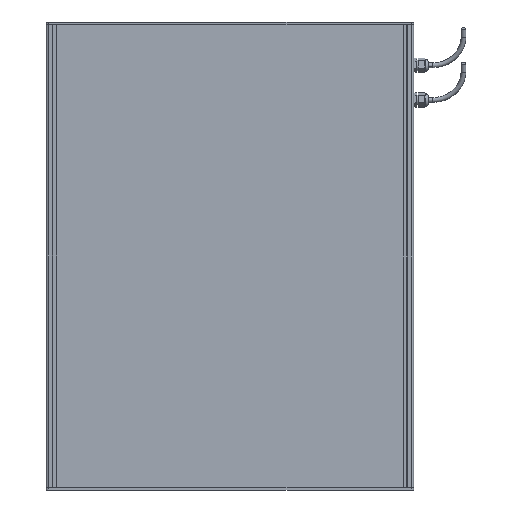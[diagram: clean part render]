
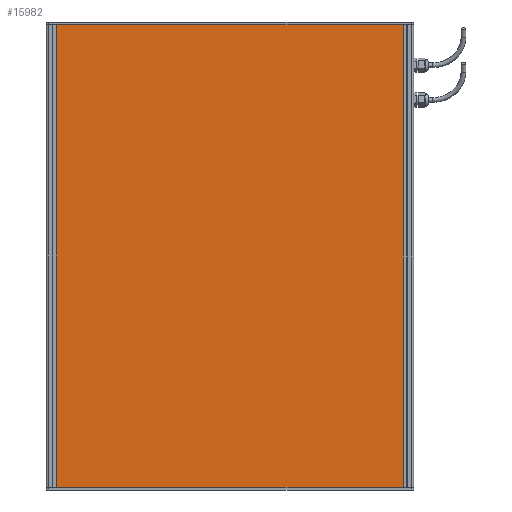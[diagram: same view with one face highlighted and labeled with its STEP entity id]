
A CAD part, front view. The second image highlights one B-rep face of the part: STEP entity #15982.
In plain terms, the highlighted planar face has unit normal (0, -1, 0) as drawn and (0, 0, 1) by its records, which use the part's own axes.
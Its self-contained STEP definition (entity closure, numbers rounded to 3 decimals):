
#61 = AXIS2_PLACEMENT_3D ( 'NONE', #11999, #14525, #3285 ) ;
#1047 = LINE ( 'NONE', #6129, #5318 ) ;
#1288 = LINE ( 'NONE', #14860, #7085 ) ;
#1499 = EDGE_CURVE ( 'NONE', #10752, #2173, #1288, .T. ) ;
#2173 = VERTEX_POINT ( 'NONE', #12511 ) ;
#2389 = DIRECTION ( 'NONE',  ( 0., -1., 0. ) ) ;
#2569 = ORIENTED_EDGE ( 'NONE', *, *, #5177, .T. ) ;
#3285 = DIRECTION ( 'NONE',  ( -1., 0., 0. ) ) ;
#4236 = LINE ( 'NONE', #8065, #8875 ) ;
#4682 = VERTEX_POINT ( 'NONE', #10606 ) ;
#5177 = EDGE_CURVE ( 'NONE', #2173, #15792, #6877, .T. ) ;
#5318 = VECTOR ( 'NONE', #2389, 1000. ) ;
#6129 = CARTESIAN_POINT ( 'NONE',  ( -609., 0., 0. ) ) ;
#6517 = ORIENTED_EDGE ( 'NONE', *, *, #1499, .T. ) ;
#6877 = LINE ( 'NONE', #11536, #14882 ) ;
#7030 = PLANE ( 'NONE',  #61 ) ;
#7085 = VECTOR ( 'NONE', #14939, 1000. ) ;
#7876 = ORIENTED_EDGE ( 'NONE', *, *, #8707, .T. ) ;
#8065 = CARTESIAN_POINT ( 'NONE',  ( -9., -800., 0. ) ) ;
#8281 = EDGE_LOOP ( 'NONE', ( #6517, #2569, #15242, #7876 ) ) ;
#8707 = EDGE_CURVE ( 'NONE', #4682, #10752, #4236, .T. ) ;
#8875 = VECTOR ( 'NONE', #14399, 1000. ) ;
#9860 = CARTESIAN_POINT ( 'NONE',  ( -9., -800., 0. ) ) ;
#10606 = CARTESIAN_POINT ( 'NONE',  ( -609., -800., 0. ) ) ;
#10752 = VERTEX_POINT ( 'NONE', #9860 ) ;
#11536 = CARTESIAN_POINT ( 'NONE',  ( -9., 0., 0. ) ) ;
#11999 = CARTESIAN_POINT ( 'NONE',  ( 0., 0., 0. ) ) ;
#12511 = CARTESIAN_POINT ( 'NONE',  ( -9., 0., 0. ) ) ;
#13172 = EDGE_CURVE ( 'NONE', #15792, #4682, #1047, .T. ) ;
#13212 = FACE_OUTER_BOUND ( 'NONE', #8281, .T. ) ;
#14399 = DIRECTION ( 'NONE',  ( 1., 0., 0. ) ) ;
#14525 = DIRECTION ( 'NONE',  ( 0., 0., -1. ) ) ;
#14860 = CARTESIAN_POINT ( 'NONE',  ( -9., 0., 0. ) ) ;
#14882 = VECTOR ( 'NONE', #15372, 1000. ) ;
#14939 = DIRECTION ( 'NONE',  ( 0., 1., 0. ) ) ;
#15242 = ORIENTED_EDGE ( 'NONE', *, *, #13172, .T. ) ;
#15372 = DIRECTION ( 'NONE',  ( -1., 0., 0. ) ) ;
#15517 = CARTESIAN_POINT ( 'NONE',  ( -609., 0., 0. ) ) ;
#15792 = VERTEX_POINT ( 'NONE', #15517 ) ;
#15982 = ADVANCED_FACE ( 'NONE', ( #13212 ), #7030, .F. ) ;
